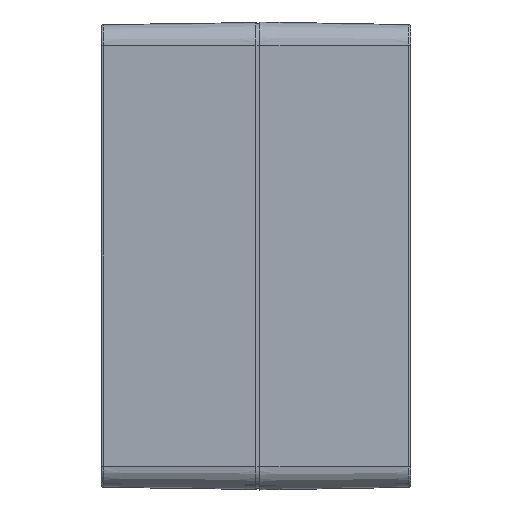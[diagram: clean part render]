
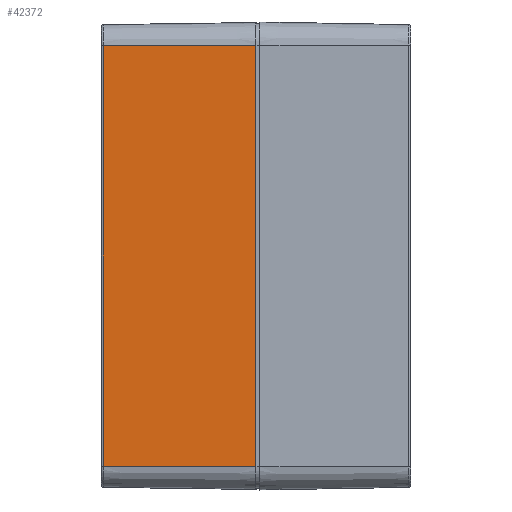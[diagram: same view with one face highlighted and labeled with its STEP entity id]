
A CAD part, left-side view. The second image highlights one B-rep face of the part: STEP entity #42372.
In plain terms, the highlighted planar face has unit normal (-1, 0.014, 0).
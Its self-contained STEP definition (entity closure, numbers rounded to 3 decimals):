
#281 = VECTOR ( 'NONE', #6758, 1000. ) ;
#1250 = VECTOR ( 'NONE', #19941, 1000. ) ;
#2581 = CARTESIAN_POINT ( 'NONE',  ( -85.3, 0., -54.35 ) ) ;
#4571 = ORIENTED_EDGE ( 'NONE', *, *, #22118, .F. ) ;
#4958 = AXIS2_PLACEMENT_3D ( 'NONE', #42229, #7269, #22862 ) ;
#5963 = CARTESIAN_POINT ( 'NONE',  ( -84.748, 39.507, 54.35 ) ) ;
#6758 = DIRECTION ( 'NONE',  ( 0., 0., 1. ) ) ;
#7269 = DIRECTION ( 'NONE',  ( -1., 0.014, 0. ) ) ;
#8630 = VERTEX_POINT ( 'NONE', #33766 ) ;
#10048 = EDGE_CURVE ( 'NONE', #17996, #8630, #42127, .T. ) ;
#11813 = CARTESIAN_POINT ( 'NONE',  ( -84.748, 39.507, -54.35 ) ) ;
#12530 = EDGE_CURVE ( 'NONE', #29031, #17996, #43154, .T. ) ;
#16403 = CARTESIAN_POINT ( 'NONE',  ( -85.3, 0., 54.35 ) ) ;
#17996 = VERTEX_POINT ( 'NONE', #11813 ) ;
#19442 = CARTESIAN_POINT ( 'NONE',  ( -84.748, 39.507, 54.35 ) ) ;
#19728 = ORIENTED_EDGE ( 'NONE', *, *, #35551, .T. ) ;
#19941 = DIRECTION ( 'NONE',  ( 0., 0., -1. ) ) ;
#20357 = ORIENTED_EDGE ( 'NONE', *, *, #12530, .T. ) ;
#22118 = EDGE_CURVE ( 'NONE', #29031, #35834, #43680, .T. ) ;
#22349 = LINE ( 'NONE', #47929, #281 ) ;
#22862 = DIRECTION ( 'NONE',  ( -0.014, -1., 0. ) ) ;
#23175 = VECTOR ( 'NONE', #46313, 1000. ) ;
#24042 = ORIENTED_EDGE ( 'NONE', *, *, #10048, .T. ) ;
#26687 = PLANE ( 'NONE',  #4958 ) ;
#29031 = VERTEX_POINT ( 'NONE', #5963 ) ;
#30242 = FACE_OUTER_BOUND ( 'NONE', #33528, .T. ) ;
#31070 = VECTOR ( 'NONE', #45201, 1000. ) ;
#33528 = EDGE_LOOP ( 'NONE', ( #4571, #20357, #24042, #19728 ) ) ;
#33766 = CARTESIAN_POINT ( 'NONE',  ( -85.3, 0., -54.35 ) ) ;
#35551 = EDGE_CURVE ( 'NONE', #8630, #35834, #22349, .T. ) ;
#35834 = VERTEX_POINT ( 'NONE', #45481 ) ;
#42127 = LINE ( 'NONE', #2581, #31070 ) ;
#42229 = CARTESIAN_POINT ( 'NONE',  ( -85.3, 0., 54.35 ) ) ;
#42372 = ADVANCED_FACE ( 'NONE', ( #30242 ), #26687, .T. ) ;
#43154 = LINE ( 'NONE', #19442, #1250 ) ;
#43680 = LINE ( 'NONE', #16403, #23175 ) ;
#45201 = DIRECTION ( 'NONE',  ( -0.014, -1., 0. ) ) ;
#45481 = CARTESIAN_POINT ( 'NONE',  ( -85.3, 0., 54.35 ) ) ;
#46313 = DIRECTION ( 'NONE',  ( -0.014, -1., 0. ) ) ;
#47929 = CARTESIAN_POINT ( 'NONE',  ( -85.3, 0., 54.35 ) ) ;
